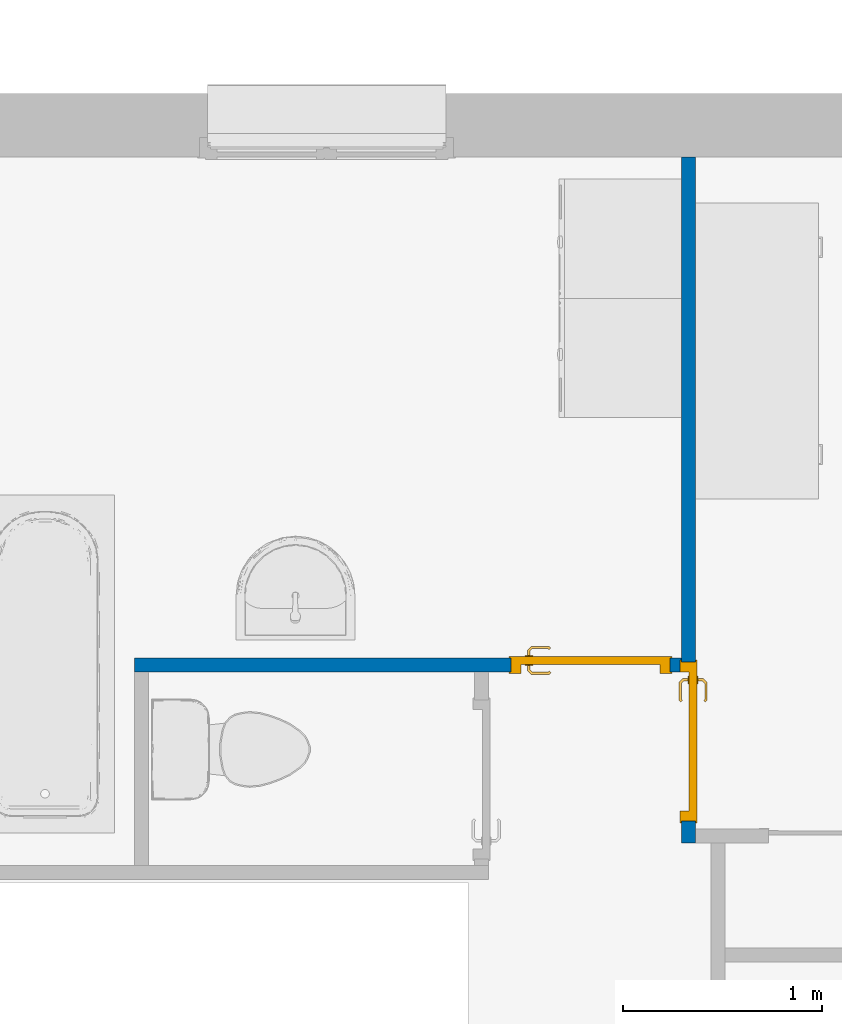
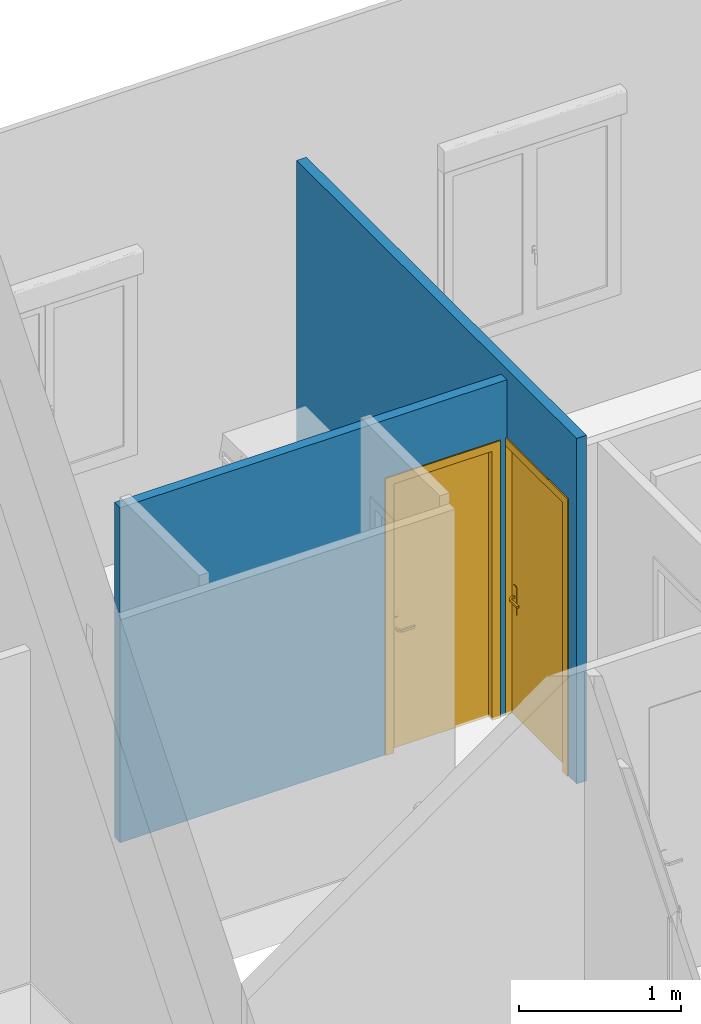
# One storey, part 21 of 50: 2 doors, 2 walls, 2 openings.
"""IFC2X3 building model written with IfcOpenShell, lengths in metres."""

import ifcopenshell
import ifcopenshell.guid

model = None  # the IFC model being written
_history = None  # IfcOwnerHistory: only IFC2X3 demands one
_inside = {}  # id of a spatial element -> (the spatial element, [elements in it])
_under = {}  # id of a project, library or spatial element -> (it, [spatial elements below it])
_declared = {}  # id of a project -> (the project, [libraries it declares])
_typed = {}  # id of a type object -> (the type object, [elements of that type])
_made_of = {}  # id of a material, layer set ... -> (it, [elements and type objects made of it])


def new_model(schema):
    """Start an empty IFC model of exactly this schema.

    Asked for "IFC4X3", IfcOpenShell would pick the latest addendum, in which some entities
    have other attributes; the version numbers below select the first issue.
    IFC2X3 requires an IfcOwnerHistory on every rooted entity: one is made here for all.
    """
    global model, _history
    if schema == "IFC4X3":
        model = ifcopenshell.file(schema_version=(4, 3, 0, 0))
    else:
        model = ifcopenshell.file(schema=schema)
    _inside.clear()
    _under.clear()
    _declared.clear()
    _typed.clear()
    _made_of.clear()
    _history = None
    if model.schema == "IFC2X3":
        org = make("IfcOrganization", Name="unknown")
        user = make(
            "IfcPersonAndOrganization",
            ThePerson=make("IfcPerson", FamilyName="unknown"),
            TheOrganization=org,
        )
        app = make(
            "IfcApplication",
            ApplicationDeveloper=org,
            Version="unknown",
            ApplicationFullName="unknown",
            ApplicationIdentifier="unknown",
        )
        _history = make(
            "IfcOwnerHistory",
            OwningUser=user,
            OwningApplication=app,
            ChangeAction="ADDED",
            CreationDate=0,
        )
    return model


def make(cls, **values):
    """One entity of the class cls with the attributes given. An attribute that is None is left unset."""
    return model.create_entity(
        cls, **{name: value for name, value in values.items() if value is not None}
    )


def entity(cls, *values):
    """Any entity or typed value of the class cls, its attributes in the order of the schema. None: left unset."""
    e = model.create_entity(cls)
    for i, value in enumerate(values):
        if value is not None:
            e[i] = value
    return e


def rooted(cls, **values):
    """An entity with a GlobalId (a new one), such as an element, a storey or a relation."""
    return make(cls, GlobalId=ifcopenshell.guid.new(), OwnerHistory=_history, **values)


def si_unit(unit_type, name, prefix=None):
    """IfcSIUnit, for example si_unit("LENGTHUNIT", "METRE", prefix="MILLI")."""
    return make("IfcSIUnit", UnitType=unit_type, Prefix=prefix, Name=name)


def converted_unit(unit_type, name, factor, base, dimensions=None, offset=None):
    """IfcConversionBasedUnit, such as the inch: factor (a typed value) times the base unit."""
    return make(
        "IfcConversionBasedUnit"
        if offset is None
        else "IfcConversionBasedUnitWithOffset",
        ConversionOffset=offset,
        Dimensions=None
        if dimensions is None
        else entity("IfcDimensionalExponents", *dimensions),
        UnitType=unit_type,
        Name=name,
        ConversionFactor=make(
            "IfcMeasureWithUnit", ValueComponent=factor, UnitComponent=base
        ),
    )


def derived_unit(unit_type, elements):
    """IfcDerivedUnit: a product of units, each with its exponent."""
    return make(
        "IfcDerivedUnit",
        Elements=[
            make("IfcDerivedUnitElement", Unit=unit, Exponent=power)
            for unit, power in elements
        ],
        UnitType=unit_type,
    )


def assignment(units):
    """IfcUnitAssignment: the units of a project."""
    return None if units is None else make("IfcUnitAssignment", Units=units)


def point(xyz):
    """IfcCartesianPoint."""
    return None if xyz is None else make("IfcCartesianPoint", Coordinates=xyz)


def direction(xyz):
    """IfcDirection."""
    return None if xyz is None else make("IfcDirection", DirectionRatios=xyz)


def frame(location, z_axis=None, x_axis=None):
    """IfcAxis2Placement3D, a coordinate frame: its origin and axes. An axis left out is left unset."""
    return make(
        "IfcAxis2Placement3D",
        Location=point(location),
        Axis=direction(z_axis),
        RefDirection=direction(x_axis),
    )


def frame_2d(location, x_axis=None):
    """IfcAxis2Placement2D, a coordinate frame in the plane: its origin and x axis."""
    return make(
        "IfcAxis2Placement2D", Location=point(location), RefDirection=direction(x_axis)
    )


def origin():
    """The frame at (0, 0, 0) with its axes left unset."""
    return frame((0.0, 0.0, 0.0))


def place(relative_to, where):
    """IfcLocalPlacement: puts the frame where relative to a parent placement (None: the world)."""
    return make(
        "IfcLocalPlacement", PlacementRelTo=relative_to, RelativePlacement=where
    )


def context(
    kind, dimensions, precision=None, world=None, true_north=None, identifier=None
):
    """IfcGeometricRepresentationContext, for example the 3D "Model" context."""
    return make(
        "IfcGeometricRepresentationContext",
        ContextIdentifier=identifier,
        ContextType=kind,
        CoordinateSpaceDimension=dimensions,
        Precision=precision,
        WorldCoordinateSystem=world,
        TrueNorth=true_north,
    )


def subcontext(parent, identifier, kind, view, scale=None):
    """IfcGeometricRepresentationSubContext, for example "Body" below "Model"."""
    return make(
        "IfcGeometricRepresentationSubContext",
        ContextIdentifier=identifier,
        ContextType=kind,
        ParentContext=parent,
        TargetScale=scale,
        TargetView=view,
    )


def project(units=None, contexts=None):
    """IfcProject with its units and contexts."""
    return rooted(
        "IfcProject",
        Name="project",
        RepresentationContexts=contexts,
        UnitsInContext=assignment(units),
    )


def spatial(cls, under=None, at=None, **own):
    """A site, building, storey or space (cls), placed at a placement, below another one or the project."""
    s = rooted(cls, ObjectPlacement=at, **own)
    if under is not None:
        _under.setdefault(under.id(), (under, []))[1].append(s)
    return s


def profile(cls, at=None, kind="AREA", **sizes):
    """A parametric profile (cls). Its sizes go by their IFC names, for example OverallWidth=200.0."""
    return make(cls, ProfileType=kind, Position=at, **sizes)


def rectangle(**sizes):
    """IfcRectangleProfileDef."""
    return profile("IfcRectangleProfileDef", **sizes)


def extrude(swept, where, along, depth):
    """IfcExtrudedAreaSolid: the profile swept, set in the frame where, extruded along a direction by depth."""
    return make(
        "IfcExtrudedAreaSolid",
        SweptArea=swept,
        Position=where,
        ExtrudedDirection=direction(along),
        Depth=depth,
    )


def faces_of(points, faces, orient=None, outer=None):
    """IfcFace entities. A face is a list of loops; a loop is a list of indices into points, from 0.

    orient and outer hold one flag for each loop. By default every Orientation is true, the
    first loop of a face is its IfcFaceOuterBound and the others are IfcFaceBound.
    """
    made = []
    for i, loops in enumerate(faces):
        bounds = []
        for j, loop in enumerate(loops):
            is_outer = j == 0 if outer is None else outer[i][j]
            bounds.append(
                make(
                    "IfcFaceOuterBound" if is_outer else "IfcFaceBound",
                    Bound=make("IfcPolyLoop", Polygon=[points[k] for k in loop]),
                    Orientation=True if orient is None else orient[i][j],
                )
            )
        made.append(make("IfcFace", Bounds=bounds))
    return made


def faceted_brep(points, faces, orient=None, outer=None, voids=None):
    """IfcFacetedBrep: a solid bounded by flat faces; with voids (closed shells), ...WithVoids."""
    shared = [point(p) for p in points]
    hull = make("IfcClosedShell", CfsFaces=faces_of(shared, faces, orient, outer))
    if voids is None:
        return make("IfcFacetedBrep", Outer=hull)
    return make(
        "IfcFacetedBrepWithVoids",
        Outer=hull,
        Voids=[
            make(cls, CfsFaces=faces_of(shared, fs, o, b)) for cls, fs, o, b in voids
        ],
    )


def shape(context_of_items, identifier, shape_type, items):
    """IfcShapeRepresentation: the items that make up one representation, for example the "Body"."""
    return make(
        "IfcShapeRepresentation",
        ContextOfItems=context_of_items,
        RepresentationIdentifier=identifier,
        RepresentationType=shape_type,
        Items=items,
    )


def source(mapping_origin, context_of_items, identifier, shape_type, items):
    """IfcRepresentationMap: a shape defined once, which mapped items show again and again."""
    return make(
        "IfcRepresentationMap",
        MappingOrigin=mapping_origin,
        MappedRepresentation=shape(context_of_items, identifier, shape_type, items),
    )


def transform(
    local_origin,
    x_axis=None,
    y_axis=None,
    z_axis=None,
    scale=None,
    scale2=None,
    scale3=None,
    uniform=True,
):
    """IfcCartesianTransformationOperator3D, or its non-uniform kind. x_axis, y_axis, z_axis: its Axis1, 2, 3."""
    if uniform:
        return make(
            "IfcCartesianTransformationOperator3D",
            Axis1=direction(x_axis),
            Axis2=direction(y_axis),
            LocalOrigin=point(local_origin),
            Scale=scale,
            Axis3=direction(z_axis),
        )
    return make(
        "IfcCartesianTransformationOperator3DnonUniform",
        Axis1=direction(x_axis),
        Axis2=direction(y_axis),
        LocalOrigin=point(local_origin),
        Scale=scale,
        Axis3=direction(z_axis),
        Scale2=scale2,
        Scale3=scale3,
    )


def mapped(mapping_source, mapping_target):
    """IfcMappedItem: shows the shape of a source again, moved by a transform."""
    return make(
        "IfcMappedItem", MappingSource=mapping_source, MappingTarget=mapping_target
    )


def material(Name=None, Category=None):
    """IfcMaterial."""
    return make("IfcMaterial", Name=Name, Category=Category)


def material_list(materials):
    """IfcMaterialList."""
    return make("IfcMaterialList", Materials=materials)


def layer(
    of_material, thickness, ventilated=None, Name=None, Category=None, Priority=None
):
    """IfcMaterialLayer: one layer of a wall or slab, of a material (None: an air gap)."""
    return make(
        "IfcMaterialLayer",
        Material=of_material,
        LayerThickness=thickness,
        IsVentilated=ventilated,
        Name=Name,
        Category=Category,
        Priority=Priority,
    )


def layer_set(layers, Name=None):
    """IfcMaterialLayerSet."""
    return make("IfcMaterialLayerSet", MaterialLayers=layers, LayerSetName=Name)


def layer_usage(for_layer_set, set_direction, sense, offset, extent=None):
    """IfcMaterialLayerSetUsage: how a layer set lies in its element."""
    return make(
        "IfcMaterialLayerSetUsage",
        ForLayerSet=for_layer_set,
        LayerSetDirection=set_direction,
        DirectionSense=sense,
        OffsetFromReferenceLine=offset,
        ReferenceExtent=extent,
    )


def made_of(thing, what):
    """Note that an element or type object is made of a material, layer set ...; save() writes the relation."""
    if what is not None:
        _made_of.setdefault(what.id(), (what, []))[1].append(thing)
    return thing


def type_object(cls, material=None, **own):
    """A type object (cls), such as IfcWallType, which elements share."""
    return made_of(rooted(cls, **own), material)


def type_shapes(of_type, sources):
    """Give a type object the sources (RepresentationMaps) that its elements show as mapped items."""
    of_type.RepresentationMaps = sources


def element(
    cls,
    number,
    at=None,
    inside=None,
    cuts=None,
    type_object=None,
    material=None,
    context=None,
    identifier="Body",
    shape_type=None,
    held_by="IfcProductDefinitionShape",
    body=None,
    shapes=None,
    **own,
):
    """One element of the class cls, such as IfcWall. Its Tag is "e" and its number.

    at: its placement. inside: the storey or other place that contains it. cuts: it is an
    opening in that element (IfcRelVoidsElement). A single representation is given by context,
    identifier, shape_type and body (its items); several are given by shapes. held_by: the class
    of the entity that holds the representations. save() writes the other relations.
    """
    e = rooted(cls, Tag="e%d" % number, ObjectPlacement=at, **own)
    if body is not None:
        shapes = [shape(context, identifier, shape_type, body)]
    if shapes is not None:
        e.Representation = make(held_by, Representations=shapes)
    if inside is not None:
        _inside.setdefault(inside.id(), (inside, []))[1].append(e)
    if cuts is not None:
        rooted(
            "IfcRelVoidsElement", RelatingBuildingElement=cuts, RelatedOpeningElement=e
        )
    if type_object is not None:
        _typed.setdefault(type_object.id(), (type_object, []))[1].append(e)
    return made_of(e, material)


def fill(opening, filler):
    """IfcRelFillsElement: the door or window that sits in an opening."""
    return rooted(
        "IfcRelFillsElement",
        RelatingOpeningElement=opening,
        RelatedBuildingElement=filler,
    )


def aggregate(whole, parts):
    """IfcRelAggregates: a whole, such as a stair, and the parts it consists of."""
    return rooted("IfcRelAggregates", RelatingObject=whole, RelatedObjects=parts)


def save(model, path):
    """Write the relations noted so far, then the file.

    IfcRelAggregates (storeys below a building ...), IfcRelContainedInSpatialStructure (elements
    in a storey), IfcRelDefinesByType, IfcRelAssociatesMaterial and IfcRelDeclares: one each for
    every whole, place, type object, material and project.
    """
    for whole, parts in _under.values():
        aggregate(whole, parts)
    for where, things in _inside.values():
        rooted(
            "IfcRelContainedInSpatialStructure",
            RelatedElements=things,
            RelatingStructure=where,
        )
    for kind, things in _typed.values():
        rooted("IfcRelDefinesByType", RelatedObjects=things, RelatingType=kind)
    for what, things in _made_of.values():
        rooted("IfcRelAssociatesMaterial", RelatedObjects=things, RelatingMaterial=what)
    for by, libraries in _declared.values():
        rooted("IfcRelDeclares", RelatingContext=by, RelatedDefinitions=libraries)
    model.write(path)


model = new_model("IFC2X3")

# Units and contexts
model_context = context("Model", 3, precision=1e-05, world=origin(), true_north=direction((6.12303176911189e-17, 1.0)))
context_of_model = context(None, 3, precision=1e-05, world=origin(), true_north=direction((6.12303176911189e-17, 1.0)))
body_context = subcontext(model_context, "Body", "Model", "MODEL_VIEW")
ifc_project = project(units=[si_unit("LENGTHUNIT", "METRE"), si_unit("AREAUNIT", "SQUARE_METRE"), si_unit("VOLUMEUNIT", "CUBIC_METRE"), converted_unit("PLANEANGLEUNIT", "DEGREE", entity("IfcRatioMeasure", 0.0174532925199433), si_unit("PLANEANGLEUNIT", "RADIAN"), dimensions=[0, 0, 0, 0, 0, 0, 0]), si_unit("MASSUNIT", "GRAM", prefix="KILO"), si_unit("TIMEUNIT", "SECOND"), si_unit("FREQUENCYUNIT", "HERTZ"), si_unit("THERMODYNAMICTEMPERATUREUNIT", "DEGREE_CELSIUS"), derived_unit("THERMALTRANSMITTANCEUNIT", [(si_unit("MASSUNIT", "GRAM", prefix="KILO"), 1), (si_unit("THERMODYNAMICTEMPERATUREUNIT", "KELVIN"), -1), (si_unit("TIMEUNIT", "SECOND"), -3)]), derived_unit("VOLUMETRICFLOWRATEUNIT", [(si_unit("LENGTHUNIT", "METRE"), 3), (si_unit("TIMEUNIT", "SECOND"), -1)]), si_unit("ELECTRICCURRENTUNIT", "AMPERE"), si_unit("ELECTRICVOLTAGEUNIT", "VOLT"), si_unit("POWERUNIT", "WATT"), si_unit("FORCEUNIT", "NEWTON", prefix="KILO"), si_unit("ILLUMINANCEUNIT", "LUX"), si_unit("LUMINOUSFLUXUNIT", "LUMEN"), si_unit("LUMINOUSINTENSITYUNIT", "CANDELA"), si_unit("PRESSUREUNIT", "PASCAL")], contexts=[model_context, context_of_model])

# Site, building, storey
site_placement = place(None, origin())
site = spatial("IfcSite", under=ifc_project, at=site_placement, Name="Surface", CompositionType="ELEMENT")
building_placement = place(site_placement, origin())
building = spatial("IfcBuilding", under=site, at=building_placement, CompositionType="ELEMENT")
storey_placement = place(building_placement, frame((0.0, 0.0, 2.82)))
storey = spatial("IfcBuildingStorey", under=building, at=storey_placement, Name="ETAGE", CompositionType="ELEMENT", Elevation=2.82)

# Wall, opening, door
ifc_material_1 = material(Name="Peinture - Blanc")
ifc_layer = layer(ifc_material_1, 0.07)
ifc_layer_set = layer_set([ifc_layer], Name="Mur de base:Int.  Platre 70 mm en blanc")
ifc_layer_usage_1 = layer_usage(ifc_layer_set, "AXIS2", "NEGATIVE", 0.035)
wall_type = type_object("IfcWallType", Name="Mur de base:Int.  Platre 70 mm en blanc", PredefinedType="STANDARD", material=ifc_layer_set)
wall_1_placement = place(storey_placement, frame((72.6417429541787, 88.1077566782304, 0.0), z_axis=(0.0, 0.0, 1.0), x_axis=(0.0, -1.0, 0.0)))
wall_1 = element("IfcWallStandardCase", 1, at=wall_1_placement, inside=storey, type_object=wall_type, material=ifc_layer_usage_1, Name="Mur de base:Int.  Platre 70 mm en blanc", ObjectType="Mur de base:Int.  Platre 70 mm en blanc", context=body_context, shape_type="SweptSolid", body=[
    extrude(rectangle(XDim=3.45000000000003, YDim=0.0700000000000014, at=frame_2d((1.72500000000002, 0.0), x_axis=(-1.0, 0.0))), origin(), (0.0, 0.0, 1.0), 2.6),
])
opening_1_placement = place(wall_1_placement, frame((2.54000000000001, -0.035, 0.0)))
opening_1 = element("IfcOpeningElement", 2, at=opening_1_placement, cuts=wall_1, Name="FR_Simple (R):73 x 204 - (70):1", ObjectType="Opening", context=body_context, shape_type="SweptSolid", body=[
    extrude(rectangle(XDim=2.075, YDim=0.799999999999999, at=frame_2d((1.0375, 0.4), x_axis=(1.0, 0.0))), frame((0.0, 0.0, 0.0), z_axis=(0.0, 1.0, 0.0), x_axis=(0.0, 0.0, 1.0)), (0.0, 0.0, 1.0), 0.07),
])
ifc_material_2 = material(Name="Poignée Porte")
ifc_material_3 = material(Name="Dormants Portes")
ifc_material_4 = material(Name="Panneaux Portes")
ifc_material_list_1 = material_list([ifc_material_2, ifc_material_3, ifc_material_4])
ifc_material_list_2 = material_list([ifc_material_2, ifc_material_3, ifc_material_4])
door_style = type_object("IfcDoorStyle", Name="73 x 204 - (70)", ConstructionType="NOTDEFINED", OperationType="SINGLE_SWING_RIGHT", ParameterTakesPrecedence=False, Sizeable=False, material=ifc_material_list_2)
shared_shape = source(origin(), body_context, "Body", "Brep", [
    faceted_brep([(0.710000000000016, -0.0130000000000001, 0.764641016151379), (0.720352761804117, -0.0130000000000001, 0.766003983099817), (0.730000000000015, -0.0130000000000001, 0.770000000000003), (0.730000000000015, -0.0130000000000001, 0.980000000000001), (0.720352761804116, -0.0130000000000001, 0.983996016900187), (0.710000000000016, -0.0130000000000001, 0.985358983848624), (0.699647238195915, -0.0130000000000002, 0.983996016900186), (0.690000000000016, -0.0130000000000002, 0.980000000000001), (0.690000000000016, -0.0130000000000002, 0.770000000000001), (0.699647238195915, -0.0130000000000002, 0.766003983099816), (0.730000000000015, -0.00800000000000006, 0.980000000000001), (0.730000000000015, -0.00800000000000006, 0.770000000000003), (0.720352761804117, -0.00800000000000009, 0.766003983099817), (0.710000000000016, -0.00800000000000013, 0.764641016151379), (0.699647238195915, -0.00800000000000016, 0.766003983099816), (0.690000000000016, -0.00800000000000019, 0.770000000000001), (0.690000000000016, -0.00800000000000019, 0.980000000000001), (0.699647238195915, -0.00800000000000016, 0.983996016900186), (0.710000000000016, -0.00800000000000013, 0.985358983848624), (0.720352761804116, -0.00800000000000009, 0.983996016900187)], [[[0, 1, 2, 3, 4, 5, 6, 7, 8, 9]], [[10, 11, 12, 13, 14, 15, 16, 17, 18, 19]], [[1, 12, 11, 2]], [[0, 13, 12, 1]], [[9, 14, 13, 0]], [[9, 8, 15, 14]], [[15, 8, 7, 16]], [[6, 17, 16, 7]], [[5, 18, 17, 6]], [[4, 19, 18, 5]], [[4, 3, 10, 19]], [[10, 3, 2, 11]]]),
    faceted_brep([(0.730000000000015, 0.0319999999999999, 0.770000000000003), (0.730000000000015, 0.0319999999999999, 0.980000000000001), (0.720352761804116, 0.0319999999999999, 0.983996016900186), (0.710000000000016, 0.0319999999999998, 0.985358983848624), (0.699647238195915, 0.0319999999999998, 0.983996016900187), (0.690000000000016, 0.0319999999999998, 0.980000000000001), (0.690000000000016, 0.0319999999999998, 0.770000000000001), (0.699647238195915, 0.0319999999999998, 0.766003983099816), (0.710000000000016, 0.0319999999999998, 0.764641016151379), (0.720352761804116, 0.0319999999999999, 0.766003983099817), (0.710000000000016, 0.0369999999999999, 0.985358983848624), (0.720352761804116, 0.0369999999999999, 0.983996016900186), (0.730000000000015, 0.0369999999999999, 0.980000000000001), (0.730000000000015, 0.0369999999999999, 0.770000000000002), (0.720352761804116, 0.0369999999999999, 0.766003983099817), (0.710000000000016, 0.0369999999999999, 0.764641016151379), (0.699647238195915, 0.0369999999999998, 0.766003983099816), (0.690000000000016, 0.0369999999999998, 0.770000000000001), (0.690000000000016, 0.0369999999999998, 0.980000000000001), (0.699647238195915, 0.0369999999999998, 0.983996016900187)], [[[0, 1, 2, 3, 4, 5, 6, 7, 8, 9]], [[10, 11, 12, 13, 14, 15, 16, 17, 18, 19]], [[4, 19, 18, 5]], [[3, 10, 19, 4]], [[2, 11, 10, 3]], [[2, 1, 12, 11]], [[12, 1, 0, 13]], [[9, 14, 13, 0]], [[8, 15, 14, 9]], [[7, 16, 15, 8]], [[7, 6, 17, 16]], [[17, 6, 5, 18]]]),
    faceted_brep([(0.707974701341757, -0.0130000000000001, 0.907780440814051), (0.712025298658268, -0.0130000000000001, 0.907780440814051), (0.716000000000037, -0.0130000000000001, 0.906999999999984), (0.716000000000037, -0.0130000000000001, 0.892999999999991), (0.712025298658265, -0.0130000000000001, 0.892219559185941), (0.707974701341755, -0.0130000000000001, 0.89221955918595), (0.703999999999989, -0.0130000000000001, 0.893000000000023), (0.703999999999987, -0.0130000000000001, 0.90699999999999), (0.712025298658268, -0.0390045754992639, 0.907780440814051), (0.716000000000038, -0.0406509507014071, 0.906999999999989), (0.707974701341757, -0.0373267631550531, 0.907780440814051), (0.694298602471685, -0.0510028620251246, 0.907780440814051), (0.695976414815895, -0.0550534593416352, 0.907780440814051), (0.609142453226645, -0.0550534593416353, 0.90778044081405), (0.610820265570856, -0.0510028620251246, 0.90778044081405), (0.604342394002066, -0.0445249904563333, 0.90778044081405), (0.601478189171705, -0.0473891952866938, 0.90778044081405), (0.703999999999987, -0.0356803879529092, 0.90699999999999), (0.703999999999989, -0.0356803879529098, 0.893000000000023), (0.707974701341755, -0.0373267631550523, 0.89221955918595), (0.712025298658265, -0.0390045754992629, 0.89221955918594), (0.695976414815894, -0.0550534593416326, 0.89221955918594), (0.694298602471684, -0.0510028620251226, 0.89221955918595), (0.610820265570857, -0.0510028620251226, 0.89221955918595), (0.609142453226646, -0.0550534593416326, 0.89221955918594), (0.601478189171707, -0.0473891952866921, 0.89221955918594), (0.604342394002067, -0.044524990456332, 0.89221955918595), (0.716000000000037, -0.0406509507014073, 0.892999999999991), (0.69762279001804, -0.059028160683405, 0.906999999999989), (0.692652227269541, -0.0470281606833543, 0.90699999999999), (0.692652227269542, -0.0470281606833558, 0.893000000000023), (0.697622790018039, -0.0590281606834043, 0.892999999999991), (0.65255943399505, -0.053182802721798, 0.907878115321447), (0.657692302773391, -0.0590281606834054, 0.906999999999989), (0.607496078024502, -0.0590281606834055, 0.906999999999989), (0.652559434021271, -0.0470281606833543, 0.90699999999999), (0.612466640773, -0.0470281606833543, 0.906999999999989), (0.652559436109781, -0.0470281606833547, 0.893000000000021), (0.612466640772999, -0.0470281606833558, 0.893000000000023), (0.652559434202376, -0.0531828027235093, 0.892121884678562), (0.647426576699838, -0.0590281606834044, 0.892999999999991), (0.607496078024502, -0.0590281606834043, 0.892999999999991), (0.607152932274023, -0.0417144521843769, 0.89300000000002), (0.598667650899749, -0.0501997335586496, 0.892999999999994), (0.598667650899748, -0.0501997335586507, 0.906999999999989), (0.607152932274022, -0.0417144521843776, 0.906999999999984)], [[[0, 1, 2, 3, 4, 5, 6, 7]], [[2, 1, 8, 9]], [[1, 0, 10, 11, 12, 8]], [[13, 14, 15, 16]], [[0, 7, 17, 10]], [[18, 17, 7, 6]], [[5, 19, 18, 6]], [[5, 4, 20, 21, 22, 19]], [[23, 24, 25, 26]], [[3, 27, 20, 4]], [[9, 27, 3, 2]], [[9, 8, 12, 28]], [[10, 17, 29, 11]], [[30, 29, 17, 18]], [[18, 19, 22, 30]], [[20, 27, 31, 21]], [[28, 31, 27, 9]], [[12, 32, 33]], [[13, 33, 32]], [[33, 28, 12]], [[33, 13, 34]], [[11, 35, 32]], [[32, 12, 11]], [[32, 35, 14]], [[35, 11, 29]], [[36, 14, 35]], [[13, 32, 14]], [[30, 37, 38, 36, 35, 29]], [[39, 37, 22]], [[40, 41, 24]], [[40, 21, 31]], [[39, 21, 40]], [[23, 37, 39]], [[39, 24, 23]], [[30, 22, 37]], [[37, 23, 38]], [[21, 39, 22]], [[24, 39, 40]], [[31, 28, 33, 34, 41, 40]], [[42, 26, 25, 43, 44, 16, 15, 45]], [[13, 16, 44, 34]], [[36, 45, 15, 14]], [[42, 45, 36, 38]], [[38, 23, 26, 42]], [[24, 41, 43, 25]], [[44, 43, 41, 34]]]),
    faceted_brep([(0.712025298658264, 0.0369999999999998, 0.907780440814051), (0.707974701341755, 0.0369999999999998, 0.907780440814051), (0.703999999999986, 0.0369999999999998, 0.90699999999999), (0.703999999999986, 0.0369999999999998, 0.89300000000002), (0.707974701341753, 0.0369999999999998, 0.892219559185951), (0.712025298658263, 0.0369999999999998, 0.892219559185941), (0.716000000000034, 0.0369999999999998, 0.892999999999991), (0.716000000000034, 0.0369999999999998, 0.90699999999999), (0.703999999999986, 0.0594852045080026, 0.90699999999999), (0.703999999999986, 0.0594852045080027, 0.89300000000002), (0.707974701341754, 0.0611315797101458, 0.907780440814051), (0.712025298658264, 0.0628093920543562, 0.907780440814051), (0.695838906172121, 0.0789957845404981, 0.907780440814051), (0.69416109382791, 0.0749451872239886, 0.907780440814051), (0.610793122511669, 0.0749451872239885, 0.907780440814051), (0.609115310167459, 0.0789957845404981, 0.907780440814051), (0.601451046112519, 0.071331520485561, 0.907780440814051), (0.604315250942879, 0.0684673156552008, 0.907780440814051), (0.716000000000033, 0.0644557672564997, 0.90699999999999), (0.716000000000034, 0.0644557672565, 0.892999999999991), (0.712025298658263, 0.0628093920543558, 0.892219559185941), (0.707974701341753, 0.0611315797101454, 0.892219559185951), (0.69416109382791, 0.0749451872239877, 0.892219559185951), (0.69583890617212, 0.0789957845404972, 0.892219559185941), (0.609115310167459, 0.0789957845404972, 0.89221955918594), (0.610793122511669, 0.0749451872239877, 0.89221955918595), (0.60431525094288, 0.0684673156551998, 0.89221955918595), (0.60145104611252, 0.07133152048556, 0.89221955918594), (0.692514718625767, 0.07097048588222, 0.89300000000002), (0.692514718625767, 0.0709704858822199, 0.90699999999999), (0.697485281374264, 0.0829704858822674, 0.90699999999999), (0.697485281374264, 0.082970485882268, 0.892999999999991), (0.652477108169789, 0.0709704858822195, 0.90699999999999), (0.612439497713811, 0.0709704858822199, 0.90699999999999), (0.612439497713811, 0.0709704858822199, 0.89300000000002), (0.652477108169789, 0.0709704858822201, 0.89300000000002), (0.652477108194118, 0.0771249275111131, 0.907878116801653), (0.647399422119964, 0.0829704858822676, 0.90699999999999), (0.607468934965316, 0.0829704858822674, 0.90699999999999), (0.657554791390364, 0.0829704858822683, 0.892999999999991), (0.607468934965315, 0.082970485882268, 0.892999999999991), (0.65247710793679, 0.0771249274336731, 0.892121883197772), (0.598640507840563, 0.0741420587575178, 0.90699999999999), (0.598640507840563, 0.074142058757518, 0.892999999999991), (0.607125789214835, 0.0656567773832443, 0.89300000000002), (0.607125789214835, 0.0656567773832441, 0.90699999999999)], [[[0, 1, 2, 3, 4, 5, 6, 7]], [[8, 9, 3, 2]], [[1, 10, 8, 2]], [[1, 0, 11, 12, 13, 10]], [[14, 15, 16, 17]], [[7, 18, 11, 0]], [[18, 7, 6, 19]], [[6, 5, 20, 19]], [[5, 4, 21, 22, 23, 20]], [[24, 25, 26, 27]], [[4, 3, 9, 21]], [[28, 9, 8, 29]], [[8, 10, 13, 29]], [[18, 30, 12, 11]], [[31, 30, 18, 19]], [[19, 20, 23, 31]], [[21, 9, 28, 22]], [[28, 29, 32, 33, 34, 35]], [[36, 32, 13]], [[37, 38, 15]], [[37, 12, 30]], [[36, 12, 37]], [[14, 32, 36]], [[36, 15, 14]], [[29, 13, 32]], [[32, 14, 33]], [[12, 36, 13]], [[15, 36, 37]], [[30, 31, 39, 40, 38, 37]], [[23, 41, 39]], [[24, 39, 41]], [[39, 31, 23]], [[39, 24, 40]], [[22, 35, 41]], [[41, 23, 22]], [[41, 35, 25]], [[35, 22, 28]], [[34, 25, 35]], [[24, 41, 25]], [[17, 16, 42, 43, 27, 26, 44, 45]], [[44, 34, 33, 45]], [[33, 14, 17, 45]], [[15, 38, 42, 16]], [[42, 38, 40, 43]], [[24, 27, 43, 40]], [[34, 44, 26, 25]]]),
    faceted_brep([(0.800000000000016, 0.0, 0.0), (0.810000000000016, 0.0, 0.0), (0.810000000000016, -0.00799999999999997, 0.0), (0.765000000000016, -0.00799999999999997, 0.0), (0.765000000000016, 0.032, 0.0), (0.750000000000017, 0.032, 0.0), (0.750000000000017, 0.0780000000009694, 0.0), (0.810000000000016, 0.0780000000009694, 0.0), (0.810000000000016, 0.0700000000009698, 0.0), (0.800000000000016, 0.0700000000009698, 0.0), (0.800000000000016, 0.0700000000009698, 2.075), (0.800000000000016, 0.0, 2.075), (0.810000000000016, 0.0700000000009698, 2.085), (-0.00999999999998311, 0.0700000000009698, 2.085), (-0.00999999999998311, 0.0700000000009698, 0.0), (0.0, 0.0700000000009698, 0.0), (0.0, 0.0700000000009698, 2.075), (0.810000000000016, 0.0780000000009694, 2.085), (0.750000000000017, 0.0780000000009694, 2.025), (0.0500000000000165, 0.0780000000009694, 2.025), (0.0500000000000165, 0.0780000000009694, 0.0), (-0.00999999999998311, 0.0780000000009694, 0.0), (-0.00999999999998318, 0.0780000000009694, 2.085), (0.750000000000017, 0.032, 2.025), (0.765000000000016, 0.032, 2.04), (0.0350000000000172, 0.032, 2.04), (0.0350000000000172, 0.032, 0.0), (0.0500000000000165, 0.032, 0.0), (0.0500000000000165, 0.032, 2.025), (0.765000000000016, -0.00799999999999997, 2.04), (0.810000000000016, -0.00799999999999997, 2.085), (-0.00999999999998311, -0.00799999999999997, 2.085), (-0.00999999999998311, -0.00799999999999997, 0.0), (0.0350000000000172, -0.00799999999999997, 0.0), (0.0350000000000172, -0.00799999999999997, 2.04), (0.810000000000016, 0.0, 2.085), (0.0, 0.0, 2.075), (0.0, 0.0, 0.0), (-0.00999999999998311, 0.0, 0.0), (-0.00999999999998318, 0.0, 2.085)], [[[0, 1, 2, 3, 4, 5, 6, 7, 8, 9]], [[9, 10, 11, 0]], [[8, 12, 13, 14, 15, 16, 10, 9]], [[7, 17, 12, 8]], [[6, 18, 19, 20, 21, 22, 17, 7]], [[5, 23, 18, 6]], [[4, 24, 25, 26, 27, 28, 23, 5]], [[3, 29, 24, 4]], [[2, 30, 31, 32, 33, 34, 29, 3]], [[1, 35, 30, 2]], [[0, 11, 36, 37, 38, 39, 35, 1]], [[10, 16, 36, 11]], [[17, 22, 13, 12]], [[23, 28, 19, 18]], [[29, 34, 25, 24]], [[35, 39, 31, 30]], [[37, 15, 14, 21, 20, 27, 26, 33, 32, 38]], [[16, 15, 37, 36]], [[22, 21, 14, 13]], [[28, 27, 20, 19]], [[34, 33, 26, 25]], [[39, 38, 32, 31]]]),
    faceted_brep([(0.765000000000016, -0.00799999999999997, 2.04), (0.0350000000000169, -0.00799999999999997, 2.04), (0.0350000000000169, -0.00799999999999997, 0.0), (0.765000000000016, -0.00799999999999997, 0.0), (0.765000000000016, 0.032, 2.04), (0.765000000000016, 0.032, 0.0), (0.0350000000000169, 0.032, 0.0), (0.0350000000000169, 0.032, 2.04)], [[[0, 1, 2, 3]], [[4, 5, 6, 7]], [[3, 5, 4, 0]], [[2, 6, 5, 3]], [[1, 7, 6, 2]], [[0, 4, 7, 1]]]),
])
type_shapes(door_style, [shared_shape])
door_1_placement = place(opening_1_placement, frame((0.80000000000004, 0.0699999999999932, 0.0), z_axis=(0.0, 0.0, 1.0), x_axis=(-1.0, 0.0, 0.0)))
door_1 = element("IfcDoor", 3, at=door_1_placement, inside=storey, type_object=door_style, material=ifc_material_list_1, Name="FR_Simple (R):73 x 204 - (70)", ObjectType="73 x 204 - (70)", OverallHeight=2.075, OverallWidth=0.800000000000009, context=body_context, shape_type="MappedRepresentation", body=[
    mapped(shared_shape, transform((0.0, 0.0, 0.0), scale=1.0)),
])
fill(opening_1, door_1)

ifc_layer_usage_2 = layer_usage(ifc_layer_set, "AXIS2", "NEGATIVE", 0.035)
wall_2_placement = place(storey_placement, frame((69.8546263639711, 85.5527566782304, 0.0)))
wall_2 = element("IfcWallStandardCase", 4, at=wall_2_placement, inside=storey, type_object=wall_type, material=ifc_layer_usage_2, Name="Mur de base:Int.  Platre 70 mm en blanc", ObjectType="Mur de base:Int.  Platre 70 mm en blanc", context=body_context, shape_type="SweptSolid", body=[
    extrude(rectangle(XDim=2.75211659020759, YDim=0.0699999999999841, at=frame_2d((1.37605829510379, -2.04697370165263e-15), x_axis=(-1.0, 0.0))), origin(), (0.0, 0.0, 1.0), 2.52),
])
opening_2_placement = place(wall_2_placement, frame((1.8935582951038, -0.034999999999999, 0.0)))
opening_2 = element("IfcOpeningElement", 5, at=opening_2_placement, cuts=wall_2, Name="FR_Simple (R):73 x 204 - (70):1", ObjectType="Opening", context=body_context, shape_type="SweptSolid", body=[
    extrude(rectangle(XDim=2.075, YDim=0.799999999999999, at=frame_2d((1.0375, 0.4), x_axis=(1.0, 0.0))), frame((0.0, 0.0, 0.0), z_axis=(0.0, 1.0, 0.0), x_axis=(0.0, 0.0, 1.0)), (0.0, 0.0, 1.0), 0.07),
])
ifc_material_list_3 = material_list([ifc_material_2, ifc_material_3, ifc_material_4])
door_2_placement = place(opening_2_placement, frame((0.799999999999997, 0.0699999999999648, 0.0), z_axis=(0.0, 0.0, 1.0), x_axis=(-1.0, 0.0, 0.0)))
door_2 = element("IfcDoor", 6, at=door_2_placement, inside=storey, type_object=door_style, material=ifc_material_list_3, Name="FR_Simple (R):73 x 204 - (70)", ObjectType="73 x 204 - (70)", OverallHeight=2.075, OverallWidth=0.8, context=body_context, shape_type="MappedRepresentation", body=[
    mapped(shared_shape, transform((0.0, 0.0, 0.0), scale=1.0)),
])
fill(opening_2, door_2)

save(model, "model.ifc")
